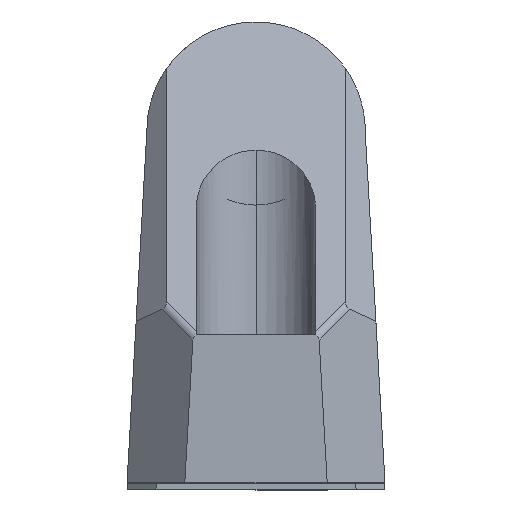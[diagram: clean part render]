
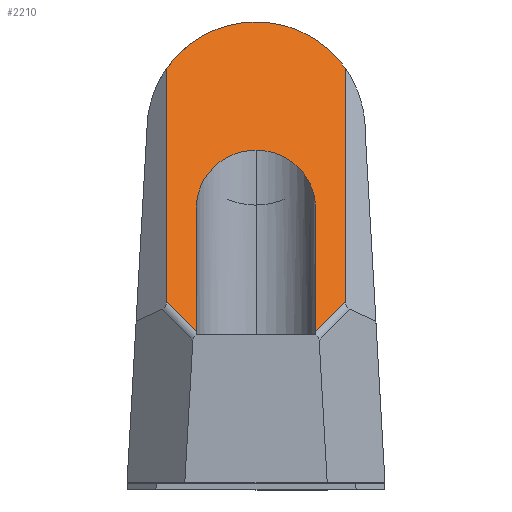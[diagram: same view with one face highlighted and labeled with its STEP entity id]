
A CAD part, top view. The second image highlights one B-rep face of the part: STEP entity #2210.
In plain terms, the highlighted planar face has unit normal (0, 0.716, 0.698).
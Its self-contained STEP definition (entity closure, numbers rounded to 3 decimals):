
#21 = CARTESIAN_POINT ( 'NONE',  ( 7.25, -9.404, 454.05 ) ) ;
#46 = CARTESIAN_POINT ( 'NONE',  ( 0., -2.34, 446.8 ) ) ;
#55 = ORIENTED_EDGE ( 'NONE', *, *, #2085, .F. ) ;
#97 = EDGE_CURVE ( 'NONE', #2555, #1551, #2503, .T. ) ;
#109 = LINE ( 'NONE', #2594, #2704 ) ;
#141 = ORIENTED_EDGE ( 'NONE', *, *, #1603, .F. ) ;
#144 = CARTESIAN_POINT ( 'NONE',  ( 7.25, -9.404, 454.05 ) ) ;
#230 = DIRECTION ( 'NONE',  ( 0., 0.698, -0.716 ) ) ;
#294 = VERTEX_POINT ( 'NONE', #811 ) ;
#407 = CARTESIAN_POINT ( 'NONE',  ( -7.25, -24.443, 469.484 ) ) ;
#444 = DIRECTION ( 'NONE',  ( -0.561, -0.578, 0.593 ) ) ;
#458 = CARTESIAN_POINT ( 'NONE',  ( -7.25, -5.266, 449.803 ) ) ;
#525 = ORIENTED_EDGE ( 'NONE', *, *, #1105, .F. ) ;
#588 = VERTEX_POINT ( 'NONE', #1325 ) ;
#617 = CARTESIAN_POINT ( 'NONE',  ( 5.048, 15.875, 428.106 ) ) ;
#618 = CARTESIAN_POINT ( 'NONE',  ( 10.847, -20.742, 465.686 ) ) ;
#651 = DIRECTION ( 'NONE',  ( 0., -0.716, -0.698 ) ) ;
#690 = ORIENTED_EDGE ( 'NONE', *, *, #2287, .T. ) ;
#811 = CARTESIAN_POINT ( 'NONE',  ( 7.25, -24.443, 469.484 ) ) ;
#892 = CARTESIAN_POINT ( 'NONE',  ( 4.247, -2.34, 446.8 ) ) ;
#901 = VERTEX_POINT ( 'NONE', #922 ) ;
#922 = CARTESIAN_POINT ( 'NONE',  ( 10.847, 7.61, 436.588 ) ) ;
#941 = ORIENTED_EDGE ( 'NONE', *, *, #2036, .F. ) ;
#1046 = CARTESIAN_POINT ( 'NONE',  ( -5.048, 15.875, 428.106 ) ) ;
#1062 = AXIS2_PLACEMENT_3D ( 'NONE', #2188, #651, #2179 ) ;
#1089 = CARTESIAN_POINT ( 'NONE',  ( -10.847, -24.75, 469.8 ) ) ;
#1105 = EDGE_CURVE ( 'NONE', #588, #2669, #2407, .T. ) ;
#1165 = CARTESIAN_POINT ( 'NONE',  ( -7.25, -24.75, 469.8 ) ) ;
#1172 = EDGE_CURVE ( 'NONE', #1551, #588, #2700, .T. ) ;
#1195 = DIRECTION ( 'NONE',  ( 0., -0.698, 0.716 ) ) ;
#1201 = VERTEX_POINT ( 'NONE', #2416 ) ;
#1269 = DIRECTION ( 'NONE',  ( 0., 0.698, -0.716 ) ) ;
#1294 = CARTESIAN_POINT ( 'NONE',  ( 7.25, -5.266, 449.803 ) ) ;
#1299 = CARTESIAN_POINT ( 'NONE',  ( -7.25, -9.404, 454.05 ) ) ;
#1325 = CARTESIAN_POINT ( 'NONE',  ( -10.847, -20.742, 465.686 ) ) ;
#1333 = PLANE ( 'NONE',  #1062 ) ;
#1397 =( BOUNDED_CURVE ( )  B_SPLINE_CURVE ( 3, ( #144, #1294, #892, #2414 ),
 .UNSPECIFIED., .F., .F. ) 
 B_SPLINE_CURVE_WITH_KNOTS ( ( 4, 4 ),
 ( 1.571, 3.142 ),
 .UNSPECIFIED. ) 
 CURVE ( )  GEOMETRIC_REPRESENTATION_ITEM ( )  RATIONAL_B_SPLINE_CURVE ( ( 1., 0.805, 0.805, 1. ) ) 
 REPRESENTATION_ITEM ( '' )  );
#1488 = VECTOR ( 'NONE', #1195, 1000. ) ;
#1490 = VECTOR ( 'NONE', #2202, 1000. ) ;
#1551 = VERTEX_POINT ( 'NONE', #407 ) ;
#1591 = VERTEX_POINT ( 'NONE', #618 ) ;
#1603 = EDGE_CURVE ( 'NONE', #294, #2238, #109, .T. ) ;
#1680 =( BOUNDED_CURVE ( )  B_SPLINE_CURVE ( 3, ( #2601, #1046, #617, #1946 ),
 .UNSPECIFIED., .F., .F. ) 
 B_SPLINE_CURVE_WITH_KNOTS ( ( 4, 4 ),
 ( 5.324, 7.242 ),
 .UNSPECIFIED. ) 
 CURVE ( )  GEOMETRIC_REPRESENTATION_ITEM ( )  RATIONAL_B_SPLINE_CURVE ( ( 1., 0.716, 0.716, 1. ) ) 
 REPRESENTATION_ITEM ( '' )  );
#1765 = CARTESIAN_POINT ( 'NONE',  ( -7.25, -9.404, 454.05 ) ) ;
#1793 = VECTOR ( 'NONE', #230, 1000. ) ;
#1887 = EDGE_LOOP ( 'NONE', ( #525, #2497, #2784, #2382, #941, #141, #2267, #690, #55 ) ) ;
#1888 =( BOUNDED_CURVE ( )  B_SPLINE_CURVE ( 3, ( #46, #1973, #458, #1765 ),
 .UNSPECIFIED., .F., .F. ) 
 B_SPLINE_CURVE_WITH_KNOTS ( ( 4, 4 ),
 ( 3.142, 4.712 ),
 .UNSPECIFIED. ) 
 CURVE ( )  GEOMETRIC_REPRESENTATION_ITEM ( )  RATIONAL_B_SPLINE_CURVE ( ( 1., 0.805, 0.805, 1. ) ) 
 REPRESENTATION_ITEM ( '' )  );
#1946 = CARTESIAN_POINT ( 'NONE',  ( 10.847, 7.61, 436.588 ) ) ;
#1966 = CARTESIAN_POINT ( 'NONE',  ( 10.847, -20.742, 465.686 ) ) ;
#1973 = CARTESIAN_POINT ( 'NONE',  ( -4.247, -2.34, 446.8 ) ) ;
#2009 = FACE_OUTER_BOUND ( 'NONE', #1887, .T. ) ;
#2036 = EDGE_CURVE ( 'NONE', #2238, #1201, #1397, .T. ) ;
#2085 = EDGE_CURVE ( 'NONE', #2669, #901, #1680, .T. ) ;
#2162 = LINE ( 'NONE', #2618, #2685 ) ;
#2179 = DIRECTION ( 'NONE',  ( 0., 0.698, -0.716 ) ) ;
#2188 = CARTESIAN_POINT ( 'NONE',  ( -127.219, -24.75, 469.8 ) ) ;
#2202 = DIRECTION ( 'NONE',  ( -0.561, 0.578, -0.593 ) ) ;
#2210 = ADVANCED_FACE ( 'NONE', ( #2009 ), #1333, .F. ) ;
#2238 = VERTEX_POINT ( 'NONE', #21 ) ;
#2267 = ORIENTED_EDGE ( 'NONE', *, *, #2687, .F. ) ;
#2287 = EDGE_CURVE ( 'NONE', #1591, #901, #2706, .T. ) ;
#2342 = VECTOR ( 'NONE', #2426, 1000. ) ;
#2382 = ORIENTED_EDGE ( 'NONE', *, *, #2778, .F. ) ;
#2407 = LINE ( 'NONE', #1089, #1793 ) ;
#2414 = CARTESIAN_POINT ( 'NONE',  ( 0., -2.34, 446.8 ) ) ;
#2416 = CARTESIAN_POINT ( 'NONE',  ( 0., -2.34, 446.8 ) ) ;
#2426 = DIRECTION ( 'NONE',  ( 0., 0.698, -0.716 ) ) ;
#2497 = ORIENTED_EDGE ( 'NONE', *, *, #1172, .F. ) ;
#2503 = LINE ( 'NONE', #1165, #1488 ) ;
#2555 = VERTEX_POINT ( 'NONE', #1299 ) ;
#2594 = CARTESIAN_POINT ( 'NONE',  ( 7.25, -24.75, 469.8 ) ) ;
#2601 = CARTESIAN_POINT ( 'NONE',  ( -10.847, 7.61, 436.588 ) ) ;
#2618 = CARTESIAN_POINT ( 'NONE',  ( 10.847, -20.742, 465.686 ) ) ;
#2630 = CARTESIAN_POINT ( 'NONE',  ( -10.847, 7.61, 436.588 ) ) ;
#2654 = CARTESIAN_POINT ( 'NONE',  ( -7.25, -24.443, 469.484 ) ) ;
#2669 = VERTEX_POINT ( 'NONE', #2630 ) ;
#2685 = VECTOR ( 'NONE', #444, 1000. ) ;
#2687 = EDGE_CURVE ( 'NONE', #1591, #294, #2162, .T. ) ;
#2700 = LINE ( 'NONE', #2654, #1490 ) ;
#2704 = VECTOR ( 'NONE', #1269, 1000. ) ;
#2706 = LINE ( 'NONE', #1966, #2342 ) ;
#2778 = EDGE_CURVE ( 'NONE', #1201, #2555, #1888, .T. ) ;
#2784 = ORIENTED_EDGE ( 'NONE', *, *, #97, .F. ) ;
